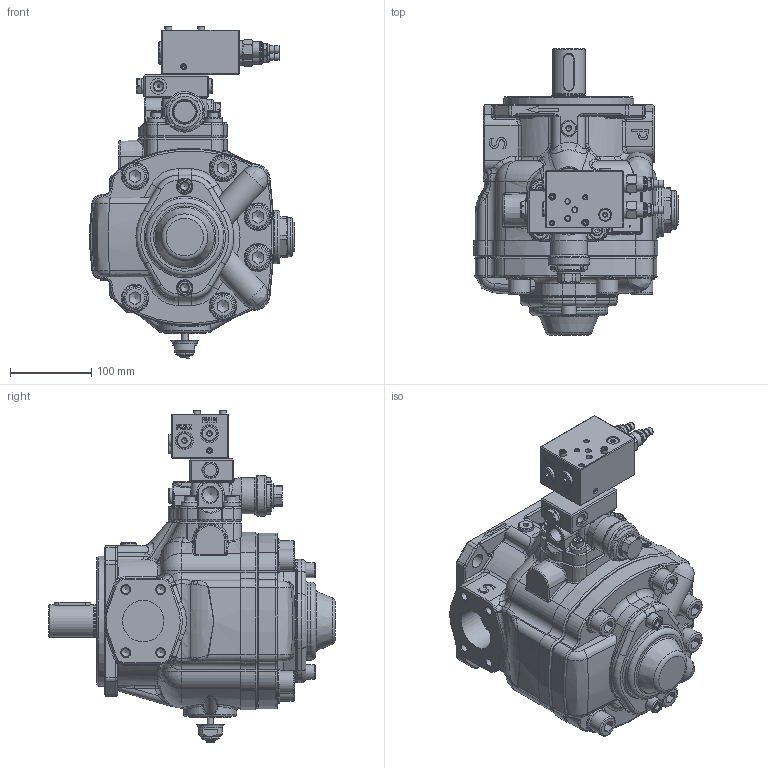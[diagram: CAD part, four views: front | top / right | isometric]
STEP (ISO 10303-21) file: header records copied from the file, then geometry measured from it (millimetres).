
FILE_DESCRIPTION(/* description */ (''),/* implementation_level */ '2;1');
FILE_NAME(/* name */ 'W:\Tecnico\Archivio\Berarma\Dimensioni Pompe\3D Export\Montaggio 3D semplificato\PLP-PHP 3\PHP 3 -A PCLS004.stp',/* time_stamp */ '2018-10-10T08:44:11+02:00',/* author */ ('marcop'),/* organization */ (''),/* preprocessor_version */ 'ST-DEVELOPER v17',/* originating_system */ 'Autodesk Inventor 2018',/* authorisation */ '');
FILE_SCHEMA (('AUTOMOTIVE_DESIGN { 1 0 10303 214 3 1 1 }'));
Products named in the file (1): PLP-PHP 3_Shrinkwrap_1
Bounding box: 251.18 x 352 x 408.1 mm (x, y, z)
Volume: 7309801.2 mm3; surface area: 629633.9 mm2
Topology: 2 solids, 2 shells, 2740 faces, 7071 edges, 4428 vertices
Faces by surface type: plane 1045, cylinder 630, bspline 468, cone 296, torus 257, sphere 44
Full cylindrical faces by diameter (mm): 0.9 x6, 1.7 x4, 3 x3, 3.15 x1, 4 x5, 4.134 x2, 5 x7, 5.5 x5, 6 x3, 6.5 x8, 7.2 x13, 7.671 x4, 8 x3, 8.376 x4, 8.5 x2, 8.566 x4, 9.347 x4, 9.5 x2, 10.106 x4, 11.445 x5, 12 x6, 13 x4, 13.487 x2, 13.5 x2, 13.767 x4, 14 x4, 14.224 x2, 14.63 x2, 15.5 x2, 16 x3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
Entity records: 103036 total; most frequent: CARTESIAN_POINT 36083, ORIENTED_EDGE 13956, DIRECTION 12840, EDGE_CURVE 6978, AXIS2_PLACEMENT_3D 5029, VERTEX_POINT 4428, EDGE_LOOP 3017, LINE 2782
